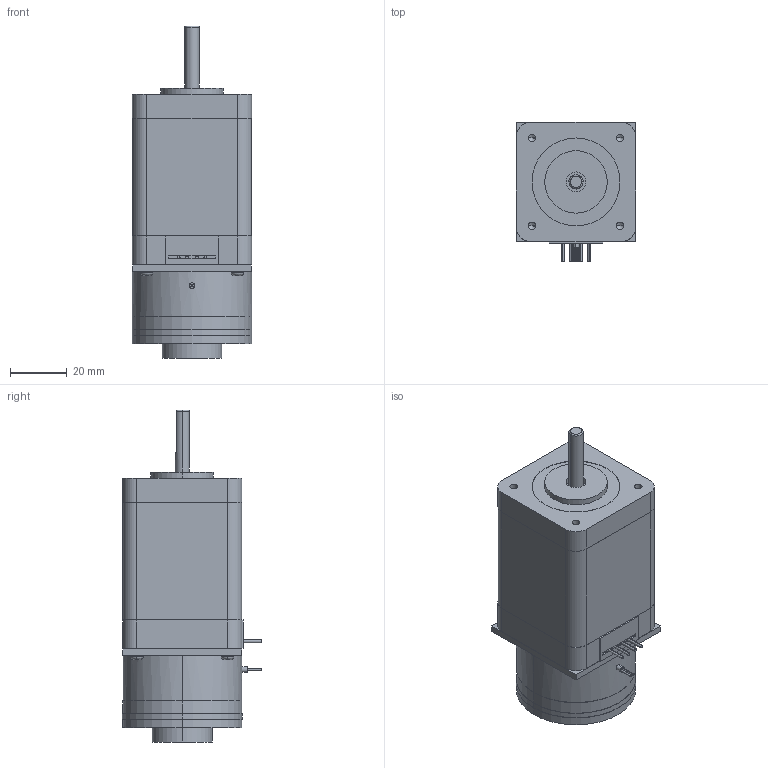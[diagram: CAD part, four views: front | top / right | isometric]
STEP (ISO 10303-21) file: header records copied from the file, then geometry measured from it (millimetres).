
FILE_DESCRIPTION (( 'STEP AP203' ), '1' );
FILE_NAME ('UB42D24-D20-461.STEP', '2019-11-16T02:21:28', ( 'China' ), ( 'Home' ), 'SwSTEP 2.0', 'SolidWorks 2016', '' );
FILE_SCHEMA (( 'CONFIG_CONTROL_DESIGN' ));
Length unit declared in the file: millimetre
Products named in the file (1): UB42D24-D20-461
Bounding box: 42.2 x 49.1 x 117 mm (x, y, z)
Volume: 146252.3 mm3; surface area: 24541.8 mm2
Topology: 6 solids, 10 shells, 282 faces, 708 edges, 459 vertices
Faces by surface type: plane 187, cylinder 76, bspline 11, cone 8
Entity records: 8704 total; most frequent: CARTESIAN_POINT 1970, ORIENTED_EDGE 1400, DIRECTION 1335, EDGE_CURVE 700, VERTEX_POINT 459, AXIS2_PLACEMENT_3D 446, LINE 443, VECTOR 443
